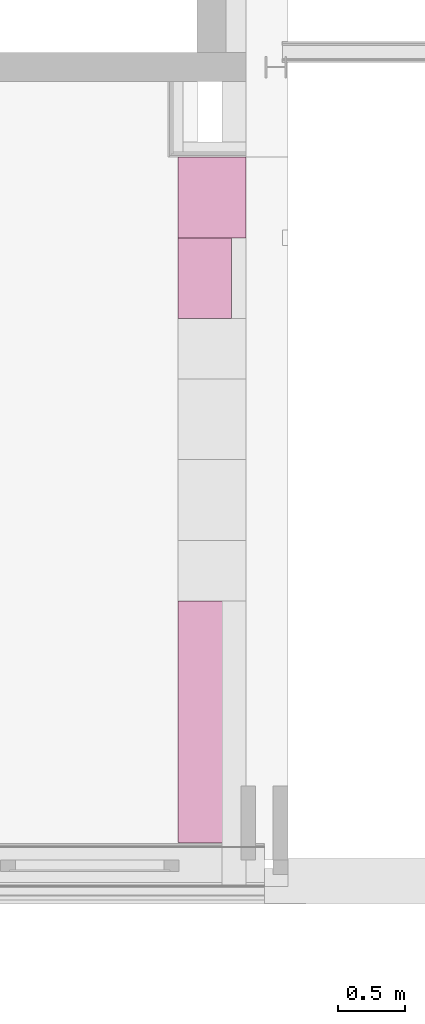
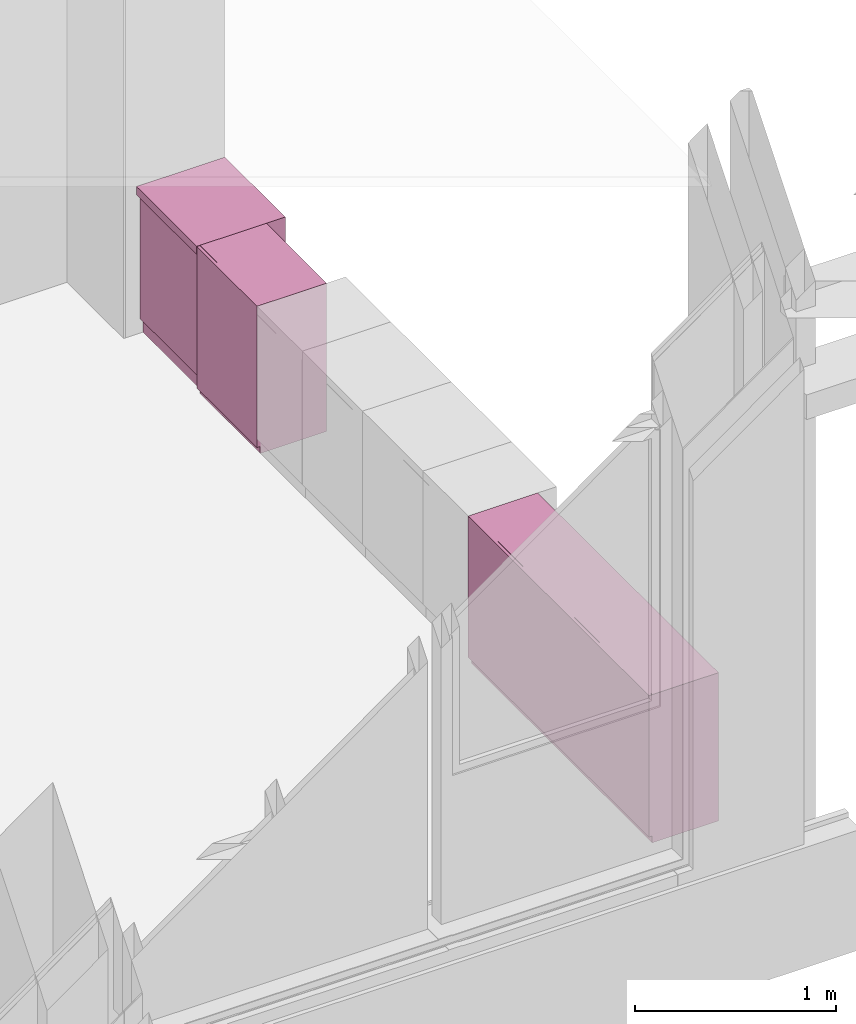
# One storey, part 94 of 94: 3 furnishings.
"""IFC2X3 building model written with IfcOpenShell, lengths in millimetres."""

from ifc_helpers import new_model, entity, si_unit, converted_unit, derived_unit, money_unit, direction, frame, origin_with_axes, place, context, subcontext, project, spatial, faceted_brep, type_object, element, save


model = new_model("IFC2X3")

# Units and contexts
model_context = context("Model", 3, precision=0.01, world=origin_with_axes(), true_north=direction((0.0, 1.0)))
body_context = subcontext(model_context, "Body", "Model", "MODEL_VIEW")
ifc_project = project(units=[si_unit("LENGTHUNIT", "METRE", prefix="MILLI"), si_unit("AREAUNIT", "SQUARE_METRE"), si_unit("VOLUMEUNIT", "CUBIC_METRE"), converted_unit("PLANEANGLEUNIT", "DEGREE", entity("IfcPlaneAngleMeasure", 0.0174532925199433), si_unit("PLANEANGLEUNIT", "RADIAN"), dimensions=[0, 0, 0, 0, 0, 0, 0]), money_unit("EUR"), converted_unit("TIMEUNIT", "Year", entity("IfcTimeMeasure", 31557600.0), si_unit("TIMEUNIT", "SECOND"), dimensions=[0, 0, 1, 0, 0, 0, 0]), si_unit("MASSUNIT", "GRAM", prefix="KILO"), si_unit("THERMODYNAMICTEMPERATUREUNIT", "DEGREE_CELSIUS"), si_unit("LUMINOUSINTENSITYUNIT", "LUMEN"), si_unit("ENERGYUNIT", "JOULE", prefix="MEGA"), derived_unit("THERMALCONDUCTANCEUNIT", [(si_unit("POWERUNIT", "WATT"), 1), (si_unit("LENGTHUNIT", "METRE"), -1), (si_unit("THERMODYNAMICTEMPERATUREUNIT", "KELVIN"), -1)]), derived_unit("SPECIFICHEATCAPACITYUNIT", [(si_unit("ENERGYUNIT", "JOULE"), 1), (si_unit("MASSUNIT", "GRAM", prefix="KILO"), -1), (si_unit("THERMODYNAMICTEMPERATUREUNIT", "KELVIN"), -1)]), derived_unit("MASSDENSITYUNIT", [(si_unit("MASSUNIT", "GRAM", prefix="KILO"), 1), (si_unit("VOLUMEUNIT", "CUBIC_METRE"), -1)])], contexts=[model_context])

# Site, building, storey
site_placement = place(None, origin_with_axes())
site = spatial("IfcSite", under=ifc_project, at=site_placement, Name="<site naam>", CompositionType="ELEMENT")
building_placement = place(site_placement, origin_with_axes())
building = spatial("IfcBuilding", under=site, at=building_placement, Name="<Naam gebouw>", CompositionType="ELEMENT")
storey_placement = place(building_placement, frame((0.0, 0.0, 4250.0), z_axis=(0.0, 0.0, 1.0), x_axis=(1.0, 0.0, 0.0)))
storey = spatial("IfcBuildingStorey", under=building, at=storey_placement, Name="01 1e verdieping", CompositionType="ELEMENT", Elevation=4250.0)

# Furnishings
furnishing_element_type = type_object("IfcFurnishingElementType", Name="Onderkast recht 27")
furnishing_1_placement = place(storey_placement, frame((51756.47781567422, 128.4999985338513, 0.0), z_axis=(0.0, 0.0, 1.0), x_axis=(0.0, -1.0, 0.0)))
element("IfcFurnishingElement", 1, at=furnishing_1_placement, inside=storey, type_object=furnishing_element_type, Name="72_Object-x_Lege", context=body_context, shape_type="Brep", body=[
    faceted_brep([(-0.9999999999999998, -381.9999999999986, 41.0), (-0.9999999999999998, -399.9999999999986, 41.0), (-1799.0, -399.9999999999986, 41.0), (-1799.0, -381.9999999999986, 41.0), (-0.9999999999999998, -381.9999999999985, 899.0000000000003), (-0.9999999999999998, -399.9999999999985, 899.0000000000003), (-1799.0, -399.9999999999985, 899.0000000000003), (-1799.0, -381.9999999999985, 899.0000000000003)], [[[0, 1, 2, 3]], [[4, 5, 1, 0]], [[1, 5, 6, 2]], [[3, 2, 6, 7]], [[0, 3, 7, 4]], [[7, 6, 5, 4]]]),
    faceted_brep([(-18.0, -381.9999999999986, 40.0), (-18.0, -381.9999999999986, 57.99999999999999), (-1782.0, -381.9999999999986, 57.99999999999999), (-1782.0, -381.9999999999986, 40.0), (-18.0, 0.0, 40.0), (-18.0, 0.0, 57.99999999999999), (-1782.0, 0.0, 57.99999999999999), (-1782.0, 0.0, 40.0)], [[[0, 1, 2, 3]], [[4, 5, 1, 0]], [[1, 5, 6, 2]], [[3, 2, 6, 7]], [[0, 3, 7, 4]], [[7, 6, 5, 4]]]),
    faceted_brep([(-18.0, -381.9999999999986, 882.0000000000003), (-18.0, -381.9999999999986, 900.0000000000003), (-1782.0, -381.9999999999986, 900.0000000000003), (-1782.0, -381.9999999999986, 882.0000000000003), (-18.0, 0.0, 882.0000000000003), (-18.0, 0.0, 900.0000000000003), (-1782.0, 0.0, 900.0000000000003), (-1782.0, 0.0, 882.0000000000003)], [[[0, 1, 2, 3]], [[4, 5, 1, 0]], [[1, 5, 6, 2]], [[3, 2, 6, 7]], [[0, 3, 7, 4]], [[7, 6, 5, 4]]]),
    faceted_brep([(0.0, 0.0, 40.0), (0.0, 0.0, 900.0000000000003), (0.0, -381.9999999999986, 900.0000000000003), (0.0, -381.9999999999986, 40.0), (-18.0, 0.0, 40.0), (-18.0, 0.0, 900.0000000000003), (-18.0, -381.9999999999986, 900.0000000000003), (-18.0, -381.9999999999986, 40.0)], [[[0, 1, 2, 3]], [[4, 5, 1, 0]], [[1, 5, 6, 2]], [[3, 2, 6, 7]], [[0, 3, 7, 4]], [[7, 6, 5, 4]]]),
    faceted_brep([(-1800.0, -381.9999999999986, 40.0), (-1800.0, -381.9999999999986, 900.0000000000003), (-1800.0, 0.0, 900.0000000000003), (-1800.0, 0.0, 40.0), (-1782.0, -381.9999999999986, 40.0), (-1782.0, -381.9999999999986, 900.0000000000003), (-1782.0, 0.0, 900.0000000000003), (-1782.0, 0.0, 40.0)], [[[0, 1, 2, 3]], [[4, 5, 1, 0]], [[1, 5, 6, 2]], [[3, 2, 6, 7]], [[0, 3, 7, 4]], [[7, 6, 5, 4]]]),
    faceted_brep([(-1782.0, -9.0, 57.99999999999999), (-1782.0, -9.0, 882.0000000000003), (-18.00000000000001, -9.0, 882.0000000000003), (-18.00000000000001, -9.0, 57.99999999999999), (-1782.0, -18.0, 57.99999999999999), (-1782.0, -18.0, 882.0000000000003), (-18.00000000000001, -18.0, 882.0000000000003), (-18.00000000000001, -18.0, 57.99999999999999)], [[[0, 1, 2, 3]], [[4, 5, 1, 0]], [[1, 5, 6, 2]], [[3, 2, 6, 7]], [[0, 3, 7, 4]], [[7, 6, 5, 4]]]),
    faceted_brep([(0.0, -381.9999999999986, 0.0), (0.0, -381.9999999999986, 40.0), (-1800.0, -381.9999999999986, 40.0), (-1800.0, -381.9999999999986, 0.0), (0.0, 0.0, 0.0), (0.0, 0.0, 40.0), (-1800.0, 0.0, 40.0), (-1800.0, 0.0, 0.0)], [[[0, 1, 2, 3]], [[4, 5, 1, 0]], [[1, 5, 6, 2]], [[3, 2, 6, 7]], [[0, 3, 7, 4]], [[7, 6, 5, 4]]]),
])
furnishing_2_placement = place(storey_placement, frame((51756.47781567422, 4028.49999853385, 0.0), z_axis=(0.0, 0.0, 1.0), x_axis=(0.0, -1.0, 0.0)))
element("IfcFurnishingElement", 2, at=furnishing_2_placement, inside=storey, type_object=furnishing_element_type, Name="72_Object-x_Lege", context=body_context, shape_type="Brep", body=[
    faceted_brep([(-1.0, -381.9999999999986, 41.0), (-1.0, -399.9999999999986, 41.0), (-598.9999999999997, -399.9999999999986, 41.0), (-598.9999999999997, -381.9999999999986, 41.0), (-1.0, -381.9999999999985, 899.0000000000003), (-1.0, -399.9999999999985, 899.0000000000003), (-598.9999999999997, -399.9999999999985, 899.0000000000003), (-598.9999999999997, -381.9999999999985, 899.0000000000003)], [[[0, 1, 2, 3]], [[4, 5, 1, 0]], [[1, 5, 6, 2]], [[3, 2, 6, 7]], [[0, 3, 7, 4]], [[7, 6, 5, 4]]]),
    faceted_brep([(-18.0, -381.9999999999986, 40.0), (-18.0, -381.9999999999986, 57.99999999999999), (-581.9999999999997, -381.9999999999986, 57.99999999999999), (-581.9999999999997, -381.9999999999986, 40.0), (-18.0, 0.0, 40.0), (-18.0, 0.0, 57.99999999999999), (-581.9999999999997, 0.0, 57.99999999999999), (-581.9999999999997, 0.0, 40.0)], [[[0, 1, 2, 3]], [[4, 5, 1, 0]], [[1, 5, 6, 2]], [[3, 2, 6, 7]], [[0, 3, 7, 4]], [[7, 6, 5, 4]]]),
    faceted_brep([(-18.0, -381.9999999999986, 882.0000000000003), (-18.0, -381.9999999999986, 900.0000000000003), (-581.9999999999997, -381.9999999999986, 900.0000000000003), (-581.9999999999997, -381.9999999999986, 882.0000000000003), (-18.0, 0.0, 882.0000000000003), (-18.0, 0.0, 900.0000000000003), (-581.9999999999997, 0.0, 900.0000000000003), (-581.9999999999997, 0.0, 882.0000000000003)], [[[0, 1, 2, 3]], [[4, 5, 1, 0]], [[1, 5, 6, 2]], [[3, 2, 6, 7]], [[0, 3, 7, 4]], [[7, 6, 5, 4]]]),
    faceted_brep([(0.0, 0.0, 40.0), (0.0, 0.0, 900.0000000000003), (0.0, -381.9999999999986, 900.0000000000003), (0.0, -381.9999999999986, 40.0), (-18.0, 0.0, 40.0), (-18.0, 0.0, 900.0000000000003), (-18.0, -381.9999999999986, 900.0000000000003), (-18.0, -381.9999999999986, 40.0)], [[[0, 1, 2, 3]], [[4, 5, 1, 0]], [[1, 5, 6, 2]], [[3, 2, 6, 7]], [[0, 3, 7, 4]], [[7, 6, 5, 4]]]),
    faceted_brep([(-599.9999999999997, -381.9999999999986, 40.0), (-599.9999999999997, -381.9999999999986, 900.0000000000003), (-599.9999999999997, 0.0, 900.0000000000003), (-599.9999999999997, 0.0, 40.0), (-581.9999999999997, -381.9999999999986, 40.0), (-581.9999999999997, -381.9999999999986, 900.0000000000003), (-581.9999999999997, 0.0, 900.0000000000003), (-581.9999999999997, 0.0, 40.0)], [[[0, 1, 2, 3]], [[4, 5, 1, 0]], [[1, 5, 6, 2]], [[3, 2, 6, 7]], [[0, 3, 7, 4]], [[7, 6, 5, 4]]]),
    faceted_brep([(-581.9999999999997, -9.0, 57.99999999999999), (-581.9999999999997, -9.0, 882.0000000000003), (-18.00000000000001, -9.0, 882.0000000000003), (-18.00000000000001, -9.0, 57.99999999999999), (-581.9999999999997, -18.0, 57.99999999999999), (-581.9999999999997, -18.0, 882.0000000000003), (-18.00000000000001, -18.0, 882.0000000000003), (-18.00000000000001, -18.0, 57.99999999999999)], [[[0, 1, 2, 3]], [[4, 5, 1, 0]], [[1, 5, 6, 2]], [[3, 2, 6, 7]], [[0, 3, 7, 4]], [[7, 6, 5, 4]]]),
    faceted_brep([(0.0, -381.9999999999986, 0.0), (0.0, -381.9999999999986, 40.0), (-599.9999999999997, -381.9999999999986, 40.0), (-599.9999999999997, -381.9999999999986, 0.0), (0.0, 0.0, 0.0), (0.0, 0.0, 40.0), (-599.9999999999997, 0.0, 40.0), (-599.9999999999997, 0.0, 0.0)], [[[0, 1, 2, 3]], [[4, 5, 1, 0]], [[1, 5, 6, 2]], [[3, 2, 6, 7]], [[0, 3, 7, 4]], [[7, 6, 5, 4]]]),
])
furnishing_3_placement = place(storey_placement, frame((51865.00000000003, 5228.49999853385, 0.0), z_axis=(0.0, 0.0, 1.0), x_axis=(0.0, -1.0, 0.0)))
element("IfcFurnishingElement", 3, at=furnishing_3_placement, inside=storey, type_object=furnishing_element_type, Name="73_heg_Lege", context=body_context, shape_type="Brep", body=[
    faceted_brep([(0.0, -508.5221843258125, 850.0), (599.9999999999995, -508.5221843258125, 850.0), (599.9999999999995, -508.5221843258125, 900.0), (0.0, -508.5221843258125, 900.0), (0.0, 0.0, 850.0), (599.9999999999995, 0.0, 850.0), (599.9999999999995, 0.0, 900.0), (0.0, 0.0, 900.0)], [[[0, 1, 2, 3]], [[0, 4, 5, 1]], [[1, 5, 6, 2]], [[3, 2, 6, 7]], [[4, 0, 3, 7]], [[5, 4, 7, 6]]]),
    faceted_brep([(1.0, -470.5221843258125, 91.0), (598.9999999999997, -470.5221843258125, 91.0), (598.9999999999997, -488.5221843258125, 91.0), (1.0, -488.5221843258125, 91.0), (1.0, -470.5221843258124, 849.0), (598.9999999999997, -470.5221843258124, 849.0), (598.9999999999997, -488.5221843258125, 849.0), (1.0, -488.5221843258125, 849.0)], [[[0, 1, 2, 3]], [[0, 4, 5, 1]], [[1, 5, 6, 2]], [[3, 2, 6, 7]], [[4, 0, 3, 7]], [[5, 4, 7, 6]]]),
    faceted_brep([(18.0, -470.5221843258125, 90.0), (581.9999999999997, -470.5221843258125, 90.0), (581.9999999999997, -470.5221843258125, 108.0), (18.0, -470.5221843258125, 108.0), (18.0, 0.0, 90.0), (581.9999999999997, 0.0, 90.0), (581.9999999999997, 0.0, 108.0), (18.0, 0.0, 108.0)], [[[0, 1, 2, 3]], [[0, 4, 5, 1]], [[1, 5, 6, 2]], [[3, 2, 6, 7]], [[4, 0, 3, 7]], [[5, 4, 7, 6]]]),
    faceted_brep([(18.0, -470.5221843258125, 832.0), (18.0, -410.5221843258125, 832.0), (581.9999999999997, -410.5221843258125, 832.0), (581.9999999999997, -470.5221843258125, 832.0), (18.0, -470.5221843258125, 850.0), (18.0, -410.5221843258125, 850.0), (581.9999999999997, -410.5221843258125, 850.0), (581.9999999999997, -470.5221843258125, 850.0)], [[[0, 1, 2, 3]], [[0, 4, 5, 1]], [[1, 5, 6, 2]], [[3, 2, 6, 7]], [[4, 0, 3, 7]], [[5, 4, 7, 6]]]),
    faceted_brep([(581.9999999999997, 0.0, 832.0), (581.9999999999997, -60.0, 832.0), (18.0, -60.0, 832.0), (18.0, 0.0, 832.0), (581.9999999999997, 0.0, 850.0), (581.9999999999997, -60.0, 850.0), (18.0, -60.0, 850.0), (18.0, 0.0, 850.0)], [[[0, 1, 2, 3]], [[0, 4, 5, 1]], [[1, 5, 6, 2]], [[3, 2, 6, 7]], [[4, 0, 3, 7]], [[5, 4, 7, 6]]]),
    faceted_brep([(0.0, 0.0, 90.0), (0.0, -470.5221843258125, 90.0), (0.0, -470.5221843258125, 850.0), (0.0, 0.0, 850.0), (18.0, 0.0, 90.0), (18.0, -470.5221843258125, 90.0), (18.0, -470.5221843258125, 850.0), (18.0, 0.0, 850.0)], [[[0, 1, 2, 3]], [[0, 4, 5, 1]], [[1, 5, 6, 2]], [[3, 2, 6, 7]], [[4, 0, 3, 7]], [[5, 4, 7, 6]]]),
    faceted_brep([(599.9999999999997, -470.5221843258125, 90.0), (599.9999999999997, 0.0, 90.0), (599.9999999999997, 0.0, 850.0), (599.9999999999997, -470.5221843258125, 850.0), (581.9999999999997, -470.5221843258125, 90.0), (581.9999999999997, 0.0, 90.0), (581.9999999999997, 0.0, 850.0), (581.9999999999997, -470.5221843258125, 850.0)], [[[0, 1, 2, 3]], [[0, 4, 5, 1]], [[1, 5, 6, 2]], [[3, 2, 6, 7]], [[4, 0, 3, 7]], [[5, 4, 7, 6]]]),
    faceted_brep([(581.9999999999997, -9.0, 108.0), (18.00000000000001, -9.0, 108.0), (18.00000000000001, -9.0, 832.0), (581.9999999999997, -9.0, 832.0), (581.9999999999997, -18.0, 108.0), (18.00000000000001, -18.0, 108.0), (18.00000000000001, -18.0, 832.0), (581.9999999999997, -18.0, 832.0)], [[[0, 1, 2, 3]], [[0, 4, 5, 1]], [[1, 5, 6, 2]], [[3, 2, 6, 7]], [[4, 0, 3, 7]], [[5, 4, 7, 6]]]),
    faceted_brep([(0.0, -470.5221843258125, 0.0), (599.9999999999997, -470.5221843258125, 0.0), (599.9999999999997, -470.5221843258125, 90.0), (0.0, -470.5221843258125, 90.0), (0.0, 0.0, 0.0), (599.9999999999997, 0.0, 0.0), (599.9999999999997, 0.0, 90.0), (0.0, 0.0, 90.0)], [[[0, 1, 2, 3]], [[0, 4, 5, 1]], [[1, 5, 6, 2]], [[3, 2, 6, 7]], [[4, 0, 3, 7]], [[5, 4, 7, 6]]]),
])

save(model, "model.ifc")
